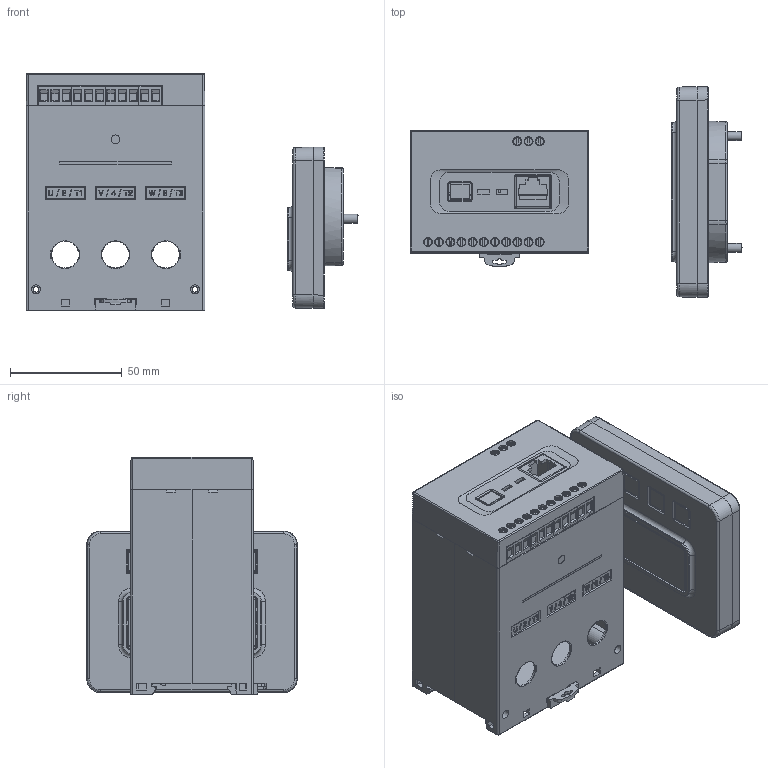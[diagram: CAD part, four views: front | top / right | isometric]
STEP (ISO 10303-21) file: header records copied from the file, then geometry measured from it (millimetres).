
FILE_DESCRIPTION(/* description */ (''),/* implementation_level */ '2;1');
FILE_NAME(/* name */ 'GTR-CP-0003_R01_CP HGMP N60I_N60Z ST_stp_.stp',/* time_stamp */ '2020-06-19T11:07:52+09:00',/* author */ (''),/* organization */ (''),/* preprocessor_version */ 'ST-DEVELOPER v16',/* originating_system */ 'SIEMENS PLM Software NX 11.0',/* authorisation */ '');
FILE_SCHEMA (('AP203_CONFIGURATION_CONTROLLED_3D_DESIGN_OF_MECHANICAL_PARTS_AND_ASSEMBLIES_MIM_LF { 1 0 10303 403 2 1 2}'));
Products named in the file (1): GTR-CP-0003_R01_CP HGMP N60I_N60Z ST_stp
Bounding box: 148.4 x 94.16 x 106 mm (x, y, z)
Volume: 100111.6 mm3; surface area: 124733 mm2
Topology: 54 solids, 54 shells, 2868 faces, 7582 edges, 4894 vertices
Faces by surface type: plane 1896, cylinder 506, extrusion 157, cone 150, torus 94, bspline 33, sphere 32
Full cylindrical faces by diameter (mm): 1.2 x4, 1.4 x2, 1.8 x1, 2.5 x2, 2.6 x4, 2.8 x4, 3 x2, 3.4 x4, 3.5 x2, 4 x19, 5 x8, 6.4 x6
Entity records: 98010 total; most frequent: CARTESIAN_POINT 19912, ORIENTED_EDGE 14878, DIRECTION 13786, EDGE_CURVE 7439, VECTOR 5700, LINE 5543, VERTEX_POINT 4856, AXIS2_PLACEMENT_3D 4043
